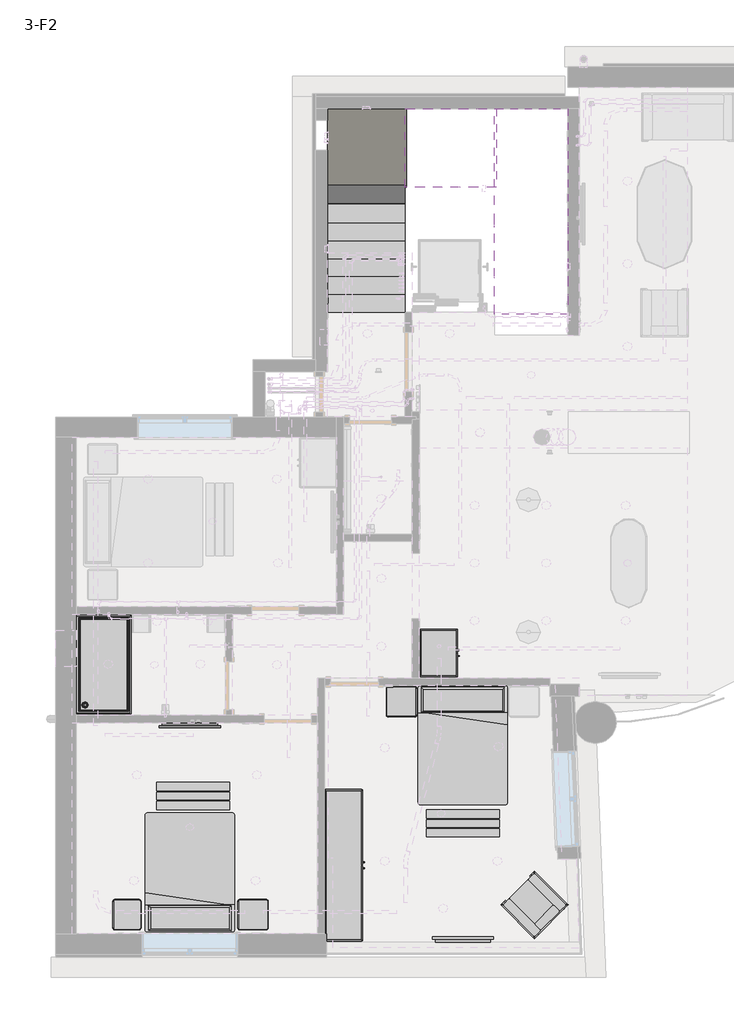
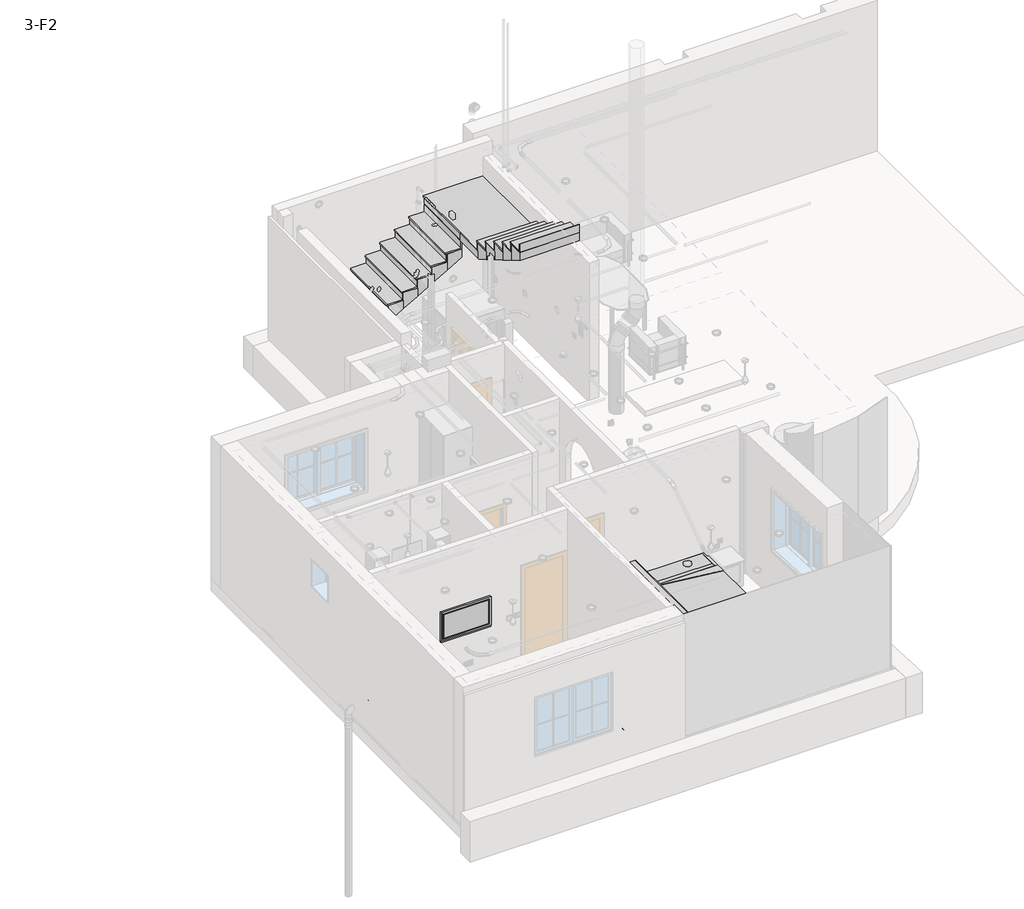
# One storey, part 4 of 12: 12 furniture elements, 3 stair flights, 2 flow terminals, 1 slab.
"""IFC4 building model written with IfcOpenShell, lengths in millimetres."""

from ifc_helpers import new_model, si_unit, point, frame, origin, place, context, project, spatial, polyline, circle_curve, ellipse_curve, trimmed, outline, extrude, faceted_brep, transform, mapped, element, save
from ifc_brep_helpers import plane_surface, cylinder_surface, revolved_surface, advanced_brep
from components import floor_drain_side_discharge_round_15cm_d06e9d18, shower_tray_1_920_x_1650mm_wide_d7a5ca5a, furniture_a3832d90, furniture_200mm_x_600m_de16569d, bed_side_table_9129_bed_side_table_9129_9961343a, bed_side_table_9129_bed_side_table_9129_263ee310, bed_side_table_9129_bed_side_table_9129_f863d0ea, bed_small_sizes_aus_single_3a526048, bench_locker_room_1220_x_457_x_356mm_af128f29, furniture_91679fb3

model = new_model("IFC4")

# Units and contexts
model_context = context("Model", 3, world=origin())
ifc_project = project(units=[si_unit("LENGTHUNIT", "METRE", prefix="MILLI")], contexts=[model_context])

# Site, building, storey
site = spatial("IfcSite", under=ifc_project)
building = spatial("IfcBuilding", under=site)
storey = spatial("IfcBuildingStorey", under=building, Name="3-F2", Elevation=6550.0)

# Flow terminals
placement = place(None, origin())
floor_drain_side_discharge_round_15cm_shape = floor_drain_side_discharge_round_15cm_d06e9d18(model_context)
element("IfcFlowTerminal", 1, ObjectType="Floor Drain Side Discharge Round : 15cm", at=placement, inside=storey, context=model_context, shape_type="MappedRepresentation", body=[
    mapped(floor_drain_side_discharge_round_15cm_shape, transform((-8855.0, -1410.6316453, 6600.0), x_axis=(1.0, 0.0, 0.0), y_axis=(0.0, 1.0, 0.0), z_axis=(0.0, 0.0, 1.0))),
])
shower_tray_1_920_x_1650mm_wide_shape = shower_tray_1_920_x_1650mm_wide_d7a5ca5a(model_context)
element("IfcFlowTerminal", 2, ObjectType="Shower Tray (1) : 920 x 1650mm Wide", at=placement, inside=storey, context=model_context, shape_type="MappedRepresentation", body=[
    mapped(shower_tray_1_920_x_1650mm_wide_shape, transform((-8617.4765921, -827.1632352, 6600.0), x_axis=(0.0, 1.0, 0.0), y_axis=(-1.0, 0.0, 0.0), z_axis=(0.0, 0.0, 1.0))),
])

# Furniture
furniture_shape = furniture_a3832d90(model_context)
element("IfcFurniture", 3, ObjectType="Couch_-_Le_Corbusier_Family_-_1_2_3_seater_9476 : 1 posto", at=placement, inside=storey, context=model_context, shape_type="MappedRepresentation", body=[
    mapped(furniture_shape, transform((-1260.8337899, -4980.6429523, 6600.0), x_axis=(0.7071067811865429, 0.7071067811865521, 0.0), y_axis=(-0.7071067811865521, 0.7071067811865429, 0.0), z_axis=(0.0, 0.0, 1.0))),
])
furniture_200mm_x_600m_shape = furniture_200mm_x_600m_de16569d(model_context)
element("IfcFurniture", 4, ObjectType="Armoire - 2 portes : 200mm x 600m", at=placement, inside=storey, context=model_context, shape_type="MappedRepresentation", body=[
    mapped(furniture_200mm_x_600m_shape, transform((-4616.5261339, -4292.2409788, 6550.0), x_axis=(0.0, 1.0, 0.0), y_axis=(-1.0, 0.0, 0.0), z_axis=(0.0, 0.0, 1.0))),
])
element("IfcFurniture", 5, ObjectType="Armoire - 2 portes : 800mm x 600mm", at=placement, inside=storey, context=model_context, shape_type="SolidModel", body=[
    advanced_brep(
    [(-2678.6151583, -682.1632352, 7558.0), (-2678.6151583, -682.1632352, 7542.0), (-2668.6151583, -682.1632352, 7558.0), (-2668.6151583, -682.1632352, 7542.0), (-2661.6151583, -682.1632352, 7535.0), (-2645.6151583, -682.1632352, 7535.0), (-2645.6151583, -682.1632352, 7465.0), (-2661.6151583, -682.1632352, 7465.0), (-2668.6151583, -682.1632352, 7458.0), (-2668.6151583, -682.1632352, 7442.0), (-2678.6151583, -682.1632352, 7442.0), (-2678.6151583, -682.1632352, 7458.0)],
    [
        (0, 1, circle_curve(frame((-2678.6151583, -682.1632352, 7550.0), z_axis=(-1.0, 0.0, 0.0), x_axis=(0.0, 0.0, -1.0)), 8.0)),
        (1, 0, circle_curve(frame((-2678.6151583, -682.1632352, 7550.0), z_axis=(-1.0, 0.0, 0.0), x_axis=(0.0, 0.0, -1.0)), 8.0)),
        (0, 2),
        (2, 3, circle_curve(frame((-2668.6151583, -682.1632352, 7550.0), z_axis=(-1.0, 0.0, 0.0), x_axis=(0.0, 0.0, -1.0)), 8.0)),
        (3, 1),
        (3, 2, circle_curve(frame((-2668.6151583, -682.1632352, 7550.0), z_axis=(-1.0, 0.0, 0.0), x_axis=(0.0, 0.0, -1.0)), 8.0)),
        (4, 3, circle_curve(frame((-2668.6151583, -682.1632352, 7535.0), z_axis=(0.0, -1.0, 0.0), x_axis=(0.0, 0.0, 1.0)), 7.0)),
        (2, 5, circle_curve(frame((-2668.6151583, -682.1632352, 7535.0), z_axis=(0.0, 1.0, 0.0), x_axis=(0.0, 0.0, 1.0)), 23.0)),
        (5, 4, circle_curve(frame((-2653.6151583, -682.1632352, 7535.0), z_axis=(0.0, 0.0, 1.0), x_axis=(-1.0, 0.0, 0.0)), 8.0)),
        (4, 5, circle_curve(frame((-2653.6151583, -682.1632352, 7535.0), z_axis=(0.0, 0.0, 1.0), x_axis=(-1.0, 0.0, 0.0)), 8.0)),
        (5, 6),
        (6, 7, circle_curve(frame((-2653.6151583, -682.1632352, 7465.0), z_axis=(0.0, 0.0, 1.0), x_axis=(-1.0, 0.0, 0.0)), 8.0)),
        (7, 4),
        (7, 6, circle_curve(frame((-2653.6151583, -682.1632352, 7465.0), z_axis=(0.0, 0.0, 1.0), x_axis=(-1.0, 0.0, 0.0)), 8.0)),
        (8, 7, circle_curve(frame((-2668.6151583, -682.1632352, 7465.0), z_axis=(0.0, -1.0, 0.0), x_axis=(1.0, 0.0, 0.0)), 7.0)),
        (6, 9, circle_curve(frame((-2668.6151583, -682.1632352, 7465.0), z_axis=(0.0, 1.0, 0.0), x_axis=(1.0, 0.0, 0.0)), 23.0)),
        (9, 8, circle_curve(frame((-2668.6151583, -682.1632352, 7450.0), z_axis=(1.0, 0.0, 0.0), x_axis=(0.0, 0.0, 1.0)), 8.0)),
        (8, 9, circle_curve(frame((-2668.6151583, -682.1632352, 7450.0), z_axis=(1.0, 0.0, 0.0), x_axis=(0.0, 0.0, 1.0)), 8.0)),
        (10, 11, circle_curve(frame((-2678.6151583, -682.1632352, 7450.0), z_axis=(-1.0, 0.0, 0.0), x_axis=(0.0, 0.0, 1.0)), 8.0)),
        (11, 10, circle_curve(frame((-2678.6151583, -682.1632352, 7450.0), z_axis=(-1.0, 0.0, 0.0), x_axis=(0.0, 0.0, 1.0)), 8.0)),
        (9, 10),
        (11, 8),
    ],
    [
        plane_surface(frame((-2678.6151583, -632.1632352, 7550.0), z_axis=(-1.0, 0.0, 0.0), x_axis=(0.0, 1.0, 0.0))),
        cylinder_surface(frame((-2678.6151583, -682.1632352, 7550.0), z_axis=(-1.0, 0.0, 0.0), x_axis=(0.0, 0.0, -1.0)), 8.0),
        revolved_surface(trimmed(ellipse_curve(frame((-2668.6151583, -682.1632352, 7550.0), z_axis=(-1.0, 0.0, 0.0), x_axis=(0.0, 0.0, -1.0)), 8.0, 8.0), [point((-2668.6151583, -682.1632352, 7558.0))], [point((-2668.6151583, -682.1632352, 7542.0))], True, "CARTESIAN"), (-2668.6151583, -632.1632352, 7535.0), (0.0, 1.0, 0.0)),
        revolved_surface(trimmed(ellipse_curve(frame((-2668.6151583, -682.1632352, 7550.0), z_axis=(-1.0, 0.0, 0.0), x_axis=(0.0, 0.0, -1.0)), 8.0, 8.0), [point((-2668.6151583, -682.1632352, 7542.0))], [point((-2668.6151583, -682.1632352, 7558.0))], True, "CARTESIAN"), (-2668.6151583, -632.1632352, 7535.0), (0.0, 1.0, 0.0)),
        cylinder_surface(frame((-2653.6151583, -682.1632352, 7535.0), z_axis=(0.0, 0.0, 1.0), x_axis=(-1.0, 0.0, 0.0)), 8.0),
        revolved_surface(trimmed(ellipse_curve(frame((-2653.6151583, -682.1632352, 7465.0), z_axis=(0.0, 0.0, 1.0), x_axis=(-1.0, 0.0, 0.0)), 8.0, 8.0), [point((-2645.6151583, -682.1632352, 7465.0))], [point((-2661.6151583, -682.1632352, 7465.0))], True, "CARTESIAN"), (-2668.6151583, -632.1632352, 7465.0), (0.0, 1.0, 0.0)),
        revolved_surface(trimmed(ellipse_curve(frame((-2653.6151583, -682.1632352, 7465.0), z_axis=(0.0, 0.0, 1.0), x_axis=(-1.0, 0.0, 0.0)), 8.0, 8.0), [point((-2661.6151583, -682.1632352, 7465.0))], [point((-2645.6151583, -682.1632352, 7465.0))], True, "CARTESIAN"), (-2668.6151583, -632.1632352, 7465.0), (0.0, 1.0, 0.0)),
        plane_surface(frame((-2678.6151583, -632.1632352, 7450.0), z_axis=(-1.0, 0.0, 0.0), x_axis=(0.0, 1.0, 0.0))),
        cylinder_surface(frame((-2668.6151583, -682.1632352, 7450.0), z_axis=(1.0, 0.0, 0.0), x_axis=(0.0, 0.0, 1.0)), 8.0),
    ],
    [
        (0, [[1, 2]]),
        (1, [[-1, 3, 4, 5]]),
        (1, [[-2, -5, 6, -3]]),
        (2, [[7, -4, 8, 9]]),
        (3, [[-8, -6, -7, 10]]),
        (4, [[-9, 11, 12, 13]]),
        (4, [[-10, -13, 14, -11]]),
        (5, [[15, -12, 16, 17]]),
        (6, [[-16, -14, -15, 18]]),
        (7, [[19, 20]]),
        (8, [[-17, 21, -20, 22]]),
        (8, [[-18, -22, -19, -21]]),
    ],
),
    advanced_brep(
    [(-2678.6151583, -582.1632352, 7558.0), (-2678.6151583, -582.1632352, 7542.0), (-2668.6151583, -582.1632352, 7558.0), (-2668.6151583, -582.1632352, 7542.0), (-2661.6151583, -582.1632352, 7535.0), (-2645.6151583, -582.1632352, 7535.0), (-2645.6151583, -582.1632352, 7465.0), (-2661.6151583, -582.1632352, 7465.0), (-2668.6151583, -582.1632352, 7458.0), (-2668.6151583, -582.1632352, 7442.0), (-2678.6151583, -582.1632352, 7442.0), (-2678.6151583, -582.1632352, 7458.0)],
    [
        (0, 1, circle_curve(frame((-2678.6151583, -582.1632352, 7550.0), z_axis=(-1.0, 0.0, 0.0), x_axis=(0.0, 0.0, -1.0)), 8.0)),
        (1, 0, circle_curve(frame((-2678.6151583, -582.1632352, 7550.0), z_axis=(-1.0, 0.0, 0.0), x_axis=(0.0, 0.0, -1.0)), 8.0)),
        (0, 2),
        (2, 3, circle_curve(frame((-2668.6151583, -582.1632352, 7550.0), z_axis=(-1.0, 0.0, 0.0), x_axis=(0.0, 0.0, -1.0)), 8.0)),
        (3, 1),
        (3, 2, circle_curve(frame((-2668.6151583, -582.1632352, 7550.0), z_axis=(-1.0, 0.0, 0.0), x_axis=(0.0, 0.0, -1.0)), 8.0)),
        (4, 3, circle_curve(frame((-2668.6151583, -582.1632352, 7535.0), z_axis=(0.0, -1.0, 0.0), x_axis=(0.0, 0.0, 1.0)), 7.0)),
        (2, 5, circle_curve(frame((-2668.6151583, -582.1632352, 7535.0), z_axis=(0.0, 1.0, 0.0), x_axis=(0.0, 0.0, 1.0)), 23.0)),
        (5, 4, circle_curve(frame((-2653.6151583, -582.1632352, 7535.0), z_axis=(0.0, 0.0, 1.0), x_axis=(-1.0, 0.0, 0.0)), 8.0)),
        (4, 5, circle_curve(frame((-2653.6151583, -582.1632352, 7535.0), z_axis=(0.0, 0.0, 1.0), x_axis=(-1.0, 0.0, 0.0)), 8.0)),
        (5, 6),
        (6, 7, circle_curve(frame((-2653.6151583, -582.1632352, 7465.0), z_axis=(0.0, 0.0, 1.0), x_axis=(-1.0, 0.0, 0.0)), 8.0)),
        (7, 4),
        (7, 6, circle_curve(frame((-2653.6151583, -582.1632352, 7465.0), z_axis=(0.0, 0.0, 1.0), x_axis=(-1.0, 0.0, 0.0)), 8.0)),
        (8, 7, circle_curve(frame((-2668.6151583, -582.1632352, 7465.0), z_axis=(0.0, -1.0, 0.0), x_axis=(1.0, 0.0, 0.0)), 7.0)),
        (6, 9, circle_curve(frame((-2668.6151583, -582.1632352, 7465.0), z_axis=(0.0, 1.0, 0.0), x_axis=(1.0, 0.0, 0.0)), 23.0)),
        (9, 8, circle_curve(frame((-2668.6151583, -582.1632352, 7450.0), z_axis=(1.0, 0.0, 0.0), x_axis=(0.0, 0.0, 1.0)), 8.0)),
        (8, 9, circle_curve(frame((-2668.6151583, -582.1632352, 7450.0), z_axis=(1.0, 0.0, 0.0), x_axis=(0.0, 0.0, 1.0)), 8.0)),
        (10, 11, circle_curve(frame((-2678.6151583, -582.1632352, 7450.0), z_axis=(-1.0, 0.0, 0.0), x_axis=(0.0, 0.0, 1.0)), 8.0)),
        (11, 10, circle_curve(frame((-2678.6151583, -582.1632352, 7450.0), z_axis=(-1.0, 0.0, 0.0), x_axis=(0.0, 0.0, 1.0)), 8.0)),
        (9, 10),
        (11, 8),
    ],
    [
        plane_surface(frame((-2678.6151583, -632.1632352, 7550.0), z_axis=(-1.0, 0.0, 0.0), x_axis=(0.0, 1.0, 0.0))),
        cylinder_surface(frame((-2678.6151583, -582.1632352, 7550.0), z_axis=(-1.0, 0.0, 0.0), x_axis=(0.0, 0.0, -1.0)), 8.0),
        revolved_surface(trimmed(ellipse_curve(frame((-2668.6151583, -582.1632352, 7550.0), z_axis=(-1.0, 0.0, 0.0), x_axis=(0.0, 0.0, -1.0)), 8.0, 8.0), [point((-2668.6151583, -582.1632352, 7558.0))], [point((-2668.6151583, -582.1632352, 7542.0))], True, "CARTESIAN"), (-2668.6151583, -632.1632352, 7535.0), (0.0, 1.0, 0.0)),
        revolved_surface(trimmed(ellipse_curve(frame((-2668.6151583, -582.1632352, 7550.0), z_axis=(-1.0, 0.0, 0.0), x_axis=(0.0, 0.0, -1.0)), 8.0, 8.0), [point((-2668.6151583, -582.1632352, 7542.0))], [point((-2668.6151583, -582.1632352, 7558.0))], True, "CARTESIAN"), (-2668.6151583, -632.1632352, 7535.0), (0.0, 1.0, 0.0)),
        cylinder_surface(frame((-2653.6151583, -582.1632352, 7535.0), z_axis=(0.0, 0.0, 1.0), x_axis=(-1.0, 0.0, 0.0)), 8.0),
        revolved_surface(trimmed(ellipse_curve(frame((-2653.6151583, -582.1632352, 7465.0), z_axis=(0.0, 0.0, 1.0), x_axis=(-1.0, 0.0, 0.0)), 8.0, 8.0), [point((-2645.6151583, -582.1632352, 7465.0))], [point((-2661.6151583, -582.1632352, 7465.0))], True, "CARTESIAN"), (-2668.6151583, -632.1632352, 7465.0), (0.0, 1.0, 0.0)),
        revolved_surface(trimmed(ellipse_curve(frame((-2653.6151583, -582.1632352, 7465.0), z_axis=(0.0, 0.0, 1.0), x_axis=(-1.0, 0.0, 0.0)), 8.0, 8.0), [point((-2661.6151583, -582.1632352, 7465.0))], [point((-2645.6151583, -582.1632352, 7465.0))], True, "CARTESIAN"), (-2668.6151583, -632.1632352, 7465.0), (0.0, 1.0, 0.0)),
        plane_surface(frame((-2678.6151583, -632.1632352, 7450.0), z_axis=(-1.0, 0.0, 0.0), x_axis=(0.0, 1.0, 0.0))),
        cylinder_surface(frame((-2668.6151583, -582.1632352, 7450.0), z_axis=(1.0, 0.0, 0.0), x_axis=(0.0, 0.0, 1.0)), 8.0),
    ],
    [
        (0, [[1, 2]]),
        (1, [[-1, 3, 4, 5]]),
        (1, [[-2, -5, 6, -3]]),
        (2, [[7, -4, 8, 9]]),
        (3, [[-8, -6, -7, 10]]),
        (4, [[-9, 11, 12, 13]]),
        (4, [[-10, -13, 14, -11]]),
        (5, [[15, -12, 16, 17]]),
        (6, [[-16, -14, -15, 18]]),
        (7, [[19, 20]]),
        (8, [[-17, 21, -20, 22]]),
        (8, [[-18, -22, -19, -21]]),
    ],
),
    extrude(outline(polyline([(-2697.6151583, -232.1632352), (-2697.6151583, -1032.1632352), (-3297.6151583, -1032.1632352), (-3297.6151583, -232.1632352), (-2697.6151583, -232.1632352)])), frame((0.0, 0.0, 6780.0), z_axis=(0.0, 0.0, 1.0), x_axis=(1.0, 0.0, 0.0)), (0.0, 0.0, 1.0), 19.0),
    extrude(outline(polyline([(-2697.6151583, -232.1632352), (-2697.6151583, -1032.1632352), (-3297.6151583, -1032.1632352), (-3297.6151583, -232.1632352), (-2697.6151583, -232.1632352)])), frame((0.0, 0.0, 8381.0), z_axis=(0.0, 0.0, 1.0), x_axis=(1.0, 0.0, 0.0)), (0.0, 0.0, 1.0), 19.0),
    extrude(outline(polyline([(-2678.6151583, -637.1632352), (-2678.6151583, -1027.1632352), (-2697.6151583, -1027.1632352), (-2697.6151583, -637.1632352), (-2678.6151583, -637.1632352)])), frame((0.0, 0.0, 6785.0), z_axis=(0.0, 0.0, 1.0), x_axis=(1.0, 0.0, 0.0)), (0.0, 0.0, 1.0), 1610.0),
    extrude(outline(polyline([(-2678.6151583, -237.1632352), (-2678.6151583, -627.1632352), (-2697.6151583, -627.1632352), (-2697.6151583, -237.1632352), (-2678.6151583, -237.1632352)])), frame((0.0, 0.0, 6785.0), z_axis=(0.0, 0.0, 1.0), x_axis=(1.0, 0.0, 0.0)), (0.0, 0.0, 1.0), 1610.0),
    faceted_brep([(-2752.6151583, -287.1632352, 6750.0), (-2752.6151583, -287.1632352, 6780.0), (-3242.6151583, -287.1632352, 6780.0), (-3242.6151583, -287.1632352, 6750.0), (-2722.6151583, -257.1632352, 6600.0), (-2752.6151583, -257.1632352, 6600.0), (-2752.6151583, -257.1632352, 6750.0), (-3242.6151583, -257.1632352, 6750.0), (-3242.6151583, -257.1632352, 6600.0), (-3272.6151583, -257.1632352, 6600.0), (-3272.6151583, -257.1632352, 6780.0), (-2722.6151583, -257.1632352, 6780.0), (-3242.6151583, -977.1632352, 6780.0), (-3242.6151583, -977.1632352, 6750.0), (-3272.6151583, -287.1632352, 6600.0), (-3272.6151583, -287.1632352, 6750.0), (-3272.6151583, -977.1632352, 6750.0), (-3272.6151583, -977.1632352, 6600.0), (-3272.6151583, -1007.1632352, 6600.0), (-3272.6151583, -1007.1632352, 6780.0), (-2752.6151583, -977.1632352, 6780.0), (-2752.6151583, -977.1632352, 6750.0), (-3242.6151583, -1007.1632352, 6600.0), (-3242.6151583, -1007.1632352, 6750.0), (-2752.6151583, -1007.1632352, 6750.0), (-2752.6151583, -1007.1632352, 6600.0), (-2722.6151583, -1007.1632352, 6600.0), (-2722.6151583, -1007.1632352, 6780.0), (-2722.6151583, -287.1632352, 6750.0), (-2722.6151583, -977.1632352, 6750.0), (-2722.6151583, -977.1632352, 6600.0), (-2722.6151583, -287.1632352, 6600.0), (-2752.6151583, -977.1632352, 6600.0), (-2752.6151583, -287.1632352, 6600.0), (-3242.6151583, -977.1632352, 6600.0), (-3242.6151583, -287.1632352, 6600.0)], [[[0, 1, 2, 3]], [[4, 5, 6, 7, 8, 9, 10, 11]], [[3, 2, 12, 13]], [[10, 9, 14, 15, 16, 17, 18, 19]], [[13, 12, 20, 21]], [[19, 18, 22, 23, 24, 25, 26, 27]], [[1, 0, 21, 20]], [[0, 3, 7, 6]], [[3, 13, 16, 15]], [[13, 21, 24, 23]], [[21, 0, 28, 29]], [[4, 11, 27, 26, 30, 29, 28, 31]], [[10, 19, 27, 11], [2, 1, 20, 12]], [[30, 26, 25, 32]], [[4, 31, 33, 5]], [[34, 22, 18, 17]], [[8, 35, 14, 9]], [[30, 32, 21, 29]], [[32, 25, 24, 21]], [[34, 17, 16, 13]], [[22, 34, 13, 23]], [[14, 35, 3, 15]], [[35, 8, 7, 3]], [[5, 33, 0, 6]], [[33, 31, 28, 0]]]),
    extrude(outline(polyline([(-2697.6151583, -1013.1632352), (-2697.6151583, -1032.1632352), (-3297.6151583, -1032.1632352), (-3297.6151583, -1013.1632352), (-2697.6151583, -1013.1632352)])), frame((0.0, 0.0, 6799.0), z_axis=(0.0, 0.0, 1.0), x_axis=(1.0, 0.0, 0.0)), (0.0, 0.0, 1.0), 1582.0),
    extrude(outline(polyline([(-2697.6151583, -232.1632352), (-2697.6151583, -251.1632352), (-3297.6151583, -251.1632352), (-3297.6151583, -232.1632352), (-2697.6151583, -232.1632352)])), frame((0.0, 0.0, 6799.0), z_axis=(0.0, 0.0, 1.0), x_axis=(1.0, 0.0, 0.0)), (0.0, 0.0, 1.0), 1582.0),
    extrude(outline(polyline([(-3287.6151583, -251.1632352), (-3287.6151583, -1013.1632352), (-3297.6151583, -1013.1632352), (-3297.6151583, -251.1632352), (-3287.6151583, -251.1632352)])), frame((0.0, 0.0, 6799.0), z_axis=(0.0, 0.0, 1.0), x_axis=(1.0, 0.0, 0.0)), (0.0, 0.0, 1.0), 1582.0),
])
bed_side_table_9129_bed_side_table_9129_shape = bed_side_table_9129_bed_side_table_9129_9961343a(model_context)
element("IfcFurniture", 6, ObjectType="BED_SIDE_TABLE_9129 : BED_SIDE_TABLE_9129", at=placement, inside=storey, context=model_context, shape_type="MappedRepresentation", body=[
    mapped(bed_side_table_9129_bed_side_table_9129_shape, transform((-6072.3106292, -4979.8724951, 6600.0), x_axis=(0.0, -1.0, 0.0), y_axis=(1.0, 0.0, 0.0), z_axis=(0.0, 0.0, 1.0))),
])
bed_side_table_9129_bed_side_table_9129_2_shape = bed_side_table_9129_bed_side_table_9129_263ee310(model_context)
element("IfcFurniture", 7, ObjectType="BED_SIDE_TABLE_9129 : BED_SIDE_TABLE_9129", at=placement, inside=storey, context=model_context, shape_type="MappedRepresentation", body=[
    mapped(bed_side_table_9129_bed_side_table_9129_2_shape, transform((-8187.3382012, -5059.8724951, 6600.0), x_axis=(0.0, 1.0, 0.0), y_axis=(-1.0, 0.0, 0.0), z_axis=(0.0, 0.0, 1.0))),
])
bed_side_table_9129_bed_side_table_9129_3_shape = bed_side_table_9129_bed_side_table_9129_f863d0ea(model_context)
element("IfcFurniture", 8, ObjectType="BED_SIDE_TABLE_9129 : BED_SIDE_TABLE_9129", at=placement, inside=storey, context=model_context, shape_type="MappedRepresentation", body=[
    mapped(bed_side_table_9129_bed_side_table_9129_3_shape, transform((-3652.7882192, -1410.2773764, 6550.0), x_axis=(0.0, -1.0, 0.0), y_axis=(1.0, 0.0, 0.0), z_axis=(0.0, 0.0, 1.0))),
])
bed_small_sizes_aus_single_shape = bed_small_sizes_aus_single_3a526048(model_context)
element("IfcFurniture", 9, ObjectType="Bed - Small Sizes (AUS) : Single", at=placement, inside=storey, context=model_context, shape_type="MappedRepresentation", body=[
    mapped(bed_small_sizes_aus_single_shape, transform((-7193.7924833, -5314.0873245, 6600.0), x_axis=(-1.0, 0.0, 0.0), y_axis=(0.0, -1.0, 0.0), z_axis=(0.0, 0.0, 1.0))),
])
element("IfcFurniture", 10, ObjectType="Bed - Small Sizes (AUS) : Single", at=placement, inside=storey, context=model_context, shape_type="MappedRepresentation", body=[
    mapped(bed_small_sizes_aus_single_shape, transform((-2563.7229998, -1177.1632352, 6600.0), x_axis=(1.0, 0.0, 0.0), y_axis=(0.0, 1.0, 0.0), z_axis=(0.0, 0.0, 1.0))),
])
bench_locker_room_1220_x_457_x_356mm_shape = bench_locker_room_1220_x_457_x_356mm_af128f29(model_context)
element("IfcFurniture", 11, ObjectType="Bench - Locker Room : 1220 x 457 x 356mm", at=placement, inside=storey, context=model_context, shape_type="MappedRepresentation", body=[
    mapped(bench_locker_room_1220_x_457_x_356mm_shape, transform((-2431.0822552, -3307.657741, 6600.0), x_axis=(1.0, 0.0, 0.0), y_axis=(0.0, 1.0, 0.0), z_axis=(0.0, 0.0, 1.0))),
])
element("IfcFurniture", 12, ObjectType="Bench - Locker Room : 1220 x 457 x 356mm", at=placement, inside=storey, context=model_context, shape_type="MappedRepresentation", body=[
    mapped(bench_locker_room_1220_x_457_x_356mm_shape, transform((-6960.1537197, -2847.9484811, 6600.0), x_axis=(1.0, 0.0, 0.0), y_axis=(0.0, 1.0, 0.0), z_axis=(0.0, 0.0, 1.0))),
])
furniture_2_shape = furniture_91679fb3(model_context)
element("IfcFurniture", 13, ObjectType="Television - Plasma : 42\"", at=placement, inside=storey, context=model_context, shape_type="MappedRepresentation", body=[
    mapped(furniture_2_shape, transform((-2529.2470093, -5484.0873245, 7050.0), x_axis=(-1.0, 0.0, 0.0), y_axis=(0.0, -1.0, 0.0), z_axis=(0.0, 0.0, 1.0))),
])
element("IfcFurniture", 14, ObjectType="Television - Plasma : 42\"", at=placement, inside=storey, context=model_context, shape_type="MappedRepresentation", body=[
    mapped(furniture_2_shape, transform((-7228.2684738, -1799.8724951, 7700.0), x_axis=(1.0, 0.0, 0.0), y_axis=(0.0, 1.0, 0.0), z_axis=(0.0, 0.0, 1.0))),
])

# Slab
element("IfcSlab", 15, ObjectType="300mm Thickness", at=placement, inside=storey, context=model_context, shape_type="SolidModel", body=[
    faceted_brep([(-4857.4765921, 7216.9560655, 7930.5263158), (-3557.4765921, 7216.9560655, 7930.5263158), (-3557.4765921, 7184.4560655, 7930.5263158), (-3524.9765921, 7184.4560655, 7930.5263158), (-3524.9765921, 8501.6620874, 7930.5263158), (-3557.4765921, 8501.6620874, 7930.5263158), (-3739.3851174, 8501.6620874, 7930.5263158), (-4857.4765921, 8501.6620874, 7930.5263158), (-4857.4765921, 7302.5475402, 7930.5263158), (-4857.4765921, 7216.9560655, 7754.2105263), (-4857.4765921, 7216.9560655, 7580.2225543), (-3557.4765921, 7216.9560655, 7580.2225543), (-3557.4765921, 7216.9560655, 7737.4374666), (-3557.4765921, 7216.9560655, 7754.2105263), (-3524.9765921, 7184.4560655, 7756.5383438), (-3524.9765921, 8501.6620874, 7756.5383438), (-3557.4765921, 8501.6620874, 7737.4374666), (-3739.3851174, 8501.6620874, 7630.5263158), (-4857.4765921, 8501.6620874, 7630.5263158), (-4857.4765921, 7302.5475402, 7630.5263158), (-3739.3851174, 7302.5475402, 7630.5263158), (-3557.4765921, 7302.5475402, 7630.5263158), (-3557.4765921, 7302.5475402, 7737.4374666), (-3557.4765921, 7184.4560655, 7737.4374666)], [[[0, 1, 2, 3, 4, 5, 6, 7, 8]], [[1, 0, 9, 10, 11, 12, 13]], [[4, 3, 14, 15]], [[5, 16, 17, 18, 7, 6]], [[10, 9, 0, 8, 7, 18, 19]], [[20, 19, 18, 17]], [[20, 21, 11, 10, 19]], [[21, 20, 22]], [[21, 22, 12, 11]], [[20, 17, 16, 15, 14, 23, 12, 22]], [[2, 1, 13, 12, 23]], [[3, 2, 23, 14]], [[5, 4, 15, 16]]]),
    extrude(outline(polyline([(-4857.4765921, 7184.4560655), (-4857.4765921, 8501.6620874), (-3557.4765921, 8501.6620874), (-3537.4765921, 8501.6620874), (-3537.4765921, 7184.4560655), (-3557.4765921, 7184.4560655), (-4857.4765921, 7184.4560655)])), frame((0.0, 0.0, 7930.5263158), z_axis=(0.0, 0.0, 1.0), x_axis=(1.0, 0.0, 0.0)), (0.0, 0.0, 1.0), 30.0),
])

# Stair flights
element("IfcStairFlight", 16, ObjectType="150mm Depth", at=placement, inside=storey, context=model_context, shape_type="SolidModel", body=[
    faceted_brep([(-4857.4765921, 5416.9560655, 6696.3157895), (-4857.4765921, 5116.9560655, 6696.3157895), (-3557.4765921, 5116.9560655, 6696.3157895), (-3557.4765921, 5416.9560655, 6696.3157895), (-4857.4765921, 5416.9560655, 6550.0), (-4857.4765921, 5116.9560655, 6550.0), (-3557.4765921, 5116.9560655, 6550.0), (-3557.4765921, 5416.9560655, 6550.0), (-4857.4765921, 5716.9560655, 6872.6315789), (-4857.4765921, 5416.9560655, 6872.6315789), (-3557.4765921, 5416.9560655, 6872.6315789), (-3557.4765921, 5716.9560655, 6872.6315789), (-4857.4765921, 5716.9560655, 6698.6436069), (-4857.4765921, 5464.0400775, 6550.0), (-3557.4765921, 5464.0400775, 6550.0), (-3557.4765921, 5716.9560655, 6698.6436069), (-4857.4765921, 6016.9560655, 7048.9473684), (-4857.4765921, 5716.9560655, 7048.9473684), (-3557.4765921, 5716.9560655, 7048.9473684), (-3557.4765921, 6016.9560655, 7048.9473684), (-4857.4765921, 6016.9560655, 6874.9593964), (-3557.4765921, 6016.9560655, 6874.9593964), (-4857.4765921, 6316.9560655, 7225.2631579), (-4857.4765921, 6016.9560655, 7225.2631579), (-3557.4765921, 6016.9560655, 7225.2631579), (-3557.4765921, 6316.9560655, 7225.2631579), (-4857.4765921, 6316.9560655, 7051.2751859), (-3557.4765921, 6316.9560655, 7051.2751859), (-4857.4765921, 6616.9560655, 7401.5789474), (-4857.4765921, 6316.9560655, 7401.5789474), (-3557.4765921, 6316.9560655, 7401.5789474), (-3557.4765921, 6616.9560655, 7401.5789474), (-4857.4765921, 6616.9560655, 7227.5909754), (-3557.4765921, 6616.9560655, 7227.5909754), (-4857.4765921, 6916.9560655, 7577.8947368), (-4857.4765921, 6616.9560655, 7577.8947368), (-3557.4765921, 6616.9560655, 7577.8947368), (-3557.4765921, 6916.9560655, 7577.8947368), (-4857.4765921, 6916.9560655, 7403.9067648), (-3557.4765921, 6916.9560655, 7403.9067648), (-4857.4765921, 7184.4560655, 7561.1216771), (-4857.4765921, 7216.9560655, 7580.2225543), (-3557.4765921, 7216.9560655, 7580.2225543), (-3557.4765921, 7184.4560655, 7561.1216771), (-4857.4765921, 7216.9560655, 7754.2105263), (-4857.4765921, 7184.4560655, 7754.2105263), (-4857.4765921, 6916.9560655, 7754.2105263), (-3557.4765921, 6916.9560655, 7754.2105263), (-3557.4765921, 7184.4560655, 7754.2105263), (-3557.4765921, 7216.9560655, 7754.2105263), (-3557.4765921, 7216.9560655, 7737.4374666)], [[[0, 1, 2, 3]], [[1, 0, 4, 5]], [[2, 1, 5, 6]], [[3, 2, 6, 7]], [[8, 9, 10, 11]], [[4, 0, 9, 8, 12, 13]], [[0, 3, 10, 9]], [[3, 7, 14, 15, 11, 10]], [[16, 17, 18, 19]], [[17, 16, 20, 12, 8]], [[8, 11, 18, 17]], [[19, 18, 11, 15, 21]], [[22, 23, 24, 25]], [[23, 22, 26, 20, 16]], [[16, 19, 24, 23]], [[25, 24, 19, 21, 27]], [[28, 29, 30, 31]], [[29, 28, 32, 26, 22]], [[22, 25, 30, 29]], [[31, 30, 25, 27, 33]], [[34, 35, 36, 37]], [[35, 34, 38, 32, 28]], [[28, 31, 36, 35]], [[37, 36, 31, 33, 39]], [[5, 4, 13, 14, 7, 6]], [[14, 13, 12, 20, 26, 32, 38, 40, 41, 42, 43, 39, 33, 27, 21, 15]], [[44, 45, 46, 47, 48, 49]], [[45, 44, 41, 40]], [[46, 45, 40, 38, 34]], [[34, 37, 47, 46]], [[48, 47, 37, 39, 43]], [[49, 48, 43, 42, 50]], [[44, 49, 50, 42, 41]]]),
    extrude(outline(polyline([(-3557.4765921, 5116.9560655), (-3557.4765921, 5104.4560655), (-4857.4765921, 5104.4560655), (-4857.4765921, 5116.9560655), (-3557.4765921, 5116.9560655)])), frame((0.0, 0.0, 6550.0), z_axis=(0.0, 0.0, 1.0), x_axis=(1.0, 0.0, 0.0)), (0.0, 0.0, 1.0), 146.3157895),
    extrude(outline(polyline([(-4857.4765921, 5404.4560655), (-3557.4765921, 5404.4560655), (-3557.4765921, 5084.4560655), (-4857.4765921, 5084.4560655), (-4857.4765921, 5404.4560655)])), frame((0.0, 0.0, 6696.3157895), z_axis=(0.0, 0.0, 1.0), x_axis=(1.0, 0.0, 0.0)), (0.0, 0.0, 1.0), 30.0),
    extrude(outline(polyline([(-3557.4765921, 5416.9560655), (-3557.4765921, 5404.4560655), (-4857.4765921, 5404.4560655), (-4857.4765921, 5416.9560655), (-3557.4765921, 5416.9560655)])), frame((0.0, 0.0, 6696.3157895), z_axis=(0.0, 0.0, 1.0), x_axis=(1.0, 0.0, 0.0)), (0.0, 0.0, 1.0), 176.3157895),
    extrude(outline(polyline([(-4857.4765921, 5704.4560655), (-3557.4765921, 5704.4560655), (-3557.4765921, 5384.4560655), (-4857.4765921, 5384.4560655), (-4857.4765921, 5704.4560655)])), frame((0.0, 0.0, 6872.6315789), z_axis=(0.0, 0.0, 1.0), x_axis=(1.0, 0.0, 0.0)), (0.0, 0.0, 1.0), 30.0),
    extrude(outline(polyline([(-3557.4765921, 5716.9560655), (-3557.4765921, 5704.4560655), (-4857.4765921, 5704.4560655), (-4857.4765921, 5716.9560655), (-3557.4765921, 5716.9560655)])), frame((0.0, 0.0, 6872.6315789), z_axis=(0.0, 0.0, 1.0), x_axis=(1.0, 0.0, 0.0)), (0.0, 0.0, 1.0), 176.3157895),
    extrude(outline(polyline([(-4857.4765921, 6004.4560655), (-3557.4765921, 6004.4560655), (-3557.4765921, 5684.4560655), (-4857.4765921, 5684.4560655), (-4857.4765921, 6004.4560655)])), frame((0.0, 0.0, 7048.9473684), z_axis=(0.0, 0.0, 1.0), x_axis=(1.0, 0.0, 0.0)), (0.0, 0.0, 1.0), 30.0),
    extrude(outline(polyline([(-3557.4765921, 6016.9560655), (-3557.4765921, 6004.4560655), (-4857.4765921, 6004.4560655), (-4857.4765921, 6016.9560655), (-3557.4765921, 6016.9560655)])), frame((0.0, 0.0, 7048.9473684), z_axis=(0.0, 0.0, 1.0), x_axis=(1.0, 0.0, 0.0)), (0.0, 0.0, 1.0), 176.3157895),
    extrude(outline(polyline([(-4857.4765921, 6304.4560655), (-3557.4765921, 6304.4560655), (-3557.4765921, 5984.4560655), (-4857.4765921, 5984.4560655), (-4857.4765921, 6304.4560655)])), frame((0.0, 0.0, 7225.2631579), z_axis=(0.0, 0.0, 1.0), x_axis=(1.0, 0.0, 0.0)), (0.0, 0.0, 1.0), 30.0),
    extrude(outline(polyline([(-3557.4765921, 6316.9560655), (-3557.4765921, 6304.4560655), (-4857.4765921, 6304.4560655), (-4857.4765921, 6316.9560655), (-3557.4765921, 6316.9560655)])), frame((0.0, 0.0, 7225.2631579), z_axis=(0.0, 0.0, 1.0), x_axis=(1.0, 0.0, 0.0)), (0.0, 0.0, 1.0), 176.3157895),
    extrude(outline(polyline([(-4857.4765921, 6604.4560655), (-3557.4765921, 6604.4560655), (-3557.4765921, 6284.4560655), (-4857.4765921, 6284.4560655), (-4857.4765921, 6604.4560655)])), frame((0.0, 0.0, 7401.5789474), z_axis=(0.0, 0.0, 1.0), x_axis=(1.0, 0.0, 0.0)), (0.0, 0.0, 1.0), 30.0),
    extrude(outline(polyline([(-3557.4765921, 6616.9560655), (-3557.4765921, 6604.4560655), (-4857.4765921, 6604.4560655), (-4857.4765921, 6616.9560655), (-3557.4765921, 6616.9560655)])), frame((0.0, 0.0, 7401.5789474), z_axis=(0.0, 0.0, 1.0), x_axis=(1.0, 0.0, 0.0)), (0.0, 0.0, 1.0), 176.3157895),
    extrude(outline(polyline([(-4857.4765921, 6904.4560655), (-3557.4765921, 6904.4560655), (-3557.4765921, 6584.4560655), (-4857.4765921, 6584.4560655), (-4857.4765921, 6904.4560655)])), frame((0.0, 0.0, 7577.8947368), z_axis=(0.0, 0.0, 1.0), x_axis=(1.0, 0.0, 0.0)), (0.0, 0.0, 1.0), 30.0),
    extrude(outline(polyline([(-3557.4765921, 7216.9560655), (-3557.4765921, 7204.4560655), (-4857.4765921, 7204.4560655), (-4857.4765921, 7216.9560655), (-3557.4765921, 7216.9560655)])), frame((0.0, 0.0, 7754.2105263), z_axis=(0.0, 0.0, 1.0), x_axis=(1.0, 0.0, 0.0)), (0.0, 0.0, 1.0), 176.3157895),
    extrude(outline(polyline([(-3557.4765921, 6916.9560655), (-3557.4765921, 6904.4560655), (-4857.4765921, 6904.4560655), (-4857.4765921, 6916.9560655), (-3557.4765921, 6916.9560655)])), frame((0.0, 0.0, 7577.8947368), z_axis=(0.0, 0.0, 1.0), x_axis=(1.0, 0.0, 0.0)), (0.0, 0.0, 1.0), 176.3157895),
    extrude(outline(polyline([(-4857.4765921, 7204.4560655), (-3557.4765921, 7204.4560655), (-3557.4765921, 7184.4560655), (-3557.4765921, 6884.4560655), (-4857.4765921, 6884.4560655), (-4857.4765921, 7184.4560655), (-4857.4765921, 7204.4560655)])), frame((0.0, 0.0, 7754.2105263), z_axis=(0.0, 0.0, 1.0), x_axis=(1.0, 0.0, 0.0)), (0.0, 0.0, 1.0), 30.0),
])
element("IfcStairFlight", 17, ObjectType="150mm Depth", at=placement, inside=storey, context=model_context, shape_type="SolidModel", body=[
    faceted_brep([(-3224.9765921, 8501.6620874, 8106.8421053), (-3524.9765921, 8501.6620874, 8106.8421053), (-3524.9765921, 7184.4560655, 8106.8421053), (-3224.9765921, 7184.4560655, 8106.8421053), (-3224.9765921, 8501.6620874, 7932.8541333), (-3524.9765921, 8501.6620874, 7756.5383438), (-3524.9765921, 8501.6620874, 7930.5263158), (-3524.9765921, 7184.4560655, 7756.5383438), (-3524.9765921, 7184.4560655, 7930.5263158), (-3224.9765921, 7184.4560655, 7932.8541333), (-2924.9765921, 8501.6620874, 8283.1578947), (-3224.9765921, 8501.6620874, 8283.1578947), (-3224.9765921, 7184.4560655, 8283.1578947), (-2924.9765921, 7184.4560655, 8283.1578947), (-2924.9765921, 8501.6620874, 8109.1699227), (-2924.9765921, 7184.4560655, 8109.1699227), (-2624.9765921, 8501.6620874, 8459.4736842), (-2924.9765921, 8501.6620874, 8459.4736842), (-2924.9765921, 7184.4560655, 8459.4736842), (-2624.9765921, 7184.4560655, 8459.4736842), (-2624.9765921, 8501.6620874, 8285.4857122), (-2624.9765921, 7184.4560655, 8285.4857122), (-2324.9765921, 8501.6620874, 8635.7894737), (-2624.9765921, 8501.6620874, 8635.7894737), (-2624.9765921, 7184.4560655, 8635.7894737), (-2324.9765921, 7184.4560655, 8635.7894737), (-2324.9765921, 8501.6620874, 8461.8015017), (-2324.9765921, 7184.4560655, 8461.8015017), (-2024.9765921, 8501.6620874, 8812.1052632), (-2324.9765921, 8501.6620874, 8812.1052632), (-2324.9765921, 7184.4560655, 8812.1052632), (-2024.9765921, 7184.4560655, 8812.1052632), (-2024.9765921, 8501.6620874, 8638.1172911), (-2024.9765921, 7184.4560655, 8638.1172911)], [[[0, 1, 2, 3]], [[1, 0, 4, 5, 6]], [[2, 1, 6, 5, 7, 8]], [[3, 2, 8, 7, 9]], [[10, 11, 12, 13]], [[11, 10, 14, 4, 0]], [[12, 11, 0, 3]], [[13, 12, 3, 9, 15]], [[16, 17, 18, 19]], [[17, 16, 20, 14, 10]], [[18, 17, 10, 13]], [[19, 18, 13, 15, 21]], [[22, 23, 24, 25]], [[23, 22, 26, 20, 16]], [[24, 23, 16, 19]], [[25, 24, 19, 21, 27]], [[28, 29, 30, 31]], [[29, 28, 32, 26, 22]], [[30, 29, 22, 25]], [[31, 30, 25, 27, 33]], [[28, 31, 33, 32]], [[5, 4, 14, 20, 26, 32, 33, 27, 21, 15, 9, 7]]]),
    extrude(outline(polyline([(-3524.9765921, 7184.4560655), (-3537.4765921, 7184.4560655), (-3537.4765921, 8501.6620874), (-3524.9765921, 8501.6620874), (-3524.9765921, 7184.4560655)])), frame((0.0, 0.0, 7930.5263158), z_axis=(0.0, 0.0, 1.0), x_axis=(1.0, 0.0, 0.0)), (0.0, 0.0, 1.0), 176.3157895),
    extrude(outline(polyline([(-3237.4765921, 8501.6620874), (-3237.4765921, 7184.4560655), (-3557.4765921, 7184.4560655), (-3557.4765921, 8501.6620874), (-3237.4765921, 8501.6620874)])), frame((0.0, 0.0, 8106.8421053), z_axis=(0.0, 0.0, 1.0), x_axis=(1.0, 0.0, 0.0)), (0.0, 0.0, 1.0), 30.0),
    extrude(outline(polyline([(-3224.9765921, 7184.4560655), (-3237.4765921, 7184.4560655), (-3237.4765921, 8501.6620874), (-3224.9765921, 8501.6620874), (-3224.9765921, 7184.4560655)])), frame((0.0, 0.0, 8106.8421053), z_axis=(0.0, 0.0, 1.0), x_axis=(1.0, 0.0, 0.0)), (0.0, 0.0, 1.0), 176.3157895),
    extrude(outline(polyline([(-2937.4765921, 8501.6620874), (-2937.4765921, 7184.4560655), (-3257.4765921, 7184.4560655), (-3257.4765921, 8501.6620874), (-2937.4765921, 8501.6620874)])), frame((0.0, 0.0, 8283.1578947), z_axis=(0.0, 0.0, 1.0), x_axis=(1.0, 0.0, 0.0)), (0.0, 0.0, 1.0), 30.0),
    extrude(outline(polyline([(-2924.9765921, 7184.4560655), (-2937.4765921, 7184.4560655), (-2937.4765921, 8501.6620874), (-2924.9765921, 8501.6620874), (-2924.9765921, 7184.4560655)])), frame((0.0, 0.0, 8283.1578947), z_axis=(0.0, 0.0, 1.0), x_axis=(1.0, 0.0, 0.0)), (0.0, 0.0, 1.0), 176.3157895),
    extrude(outline(polyline([(-2637.4765921, 8501.6620874), (-2637.4765921, 7184.4560655), (-2957.4765921, 7184.4560655), (-2957.4765921, 8501.6620874), (-2637.4765921, 8501.6620874)])), frame((0.0, 0.0, 8459.4736842), z_axis=(0.0, 0.0, 1.0), x_axis=(1.0, 0.0, 0.0)), (0.0, 0.0, 1.0), 30.0),
    extrude(outline(polyline([(-2624.9765921, 7184.4560655), (-2637.4765921, 7184.4560655), (-2637.4765921, 8501.6620874), (-2624.9765921, 8501.6620874), (-2624.9765921, 7184.4560655)])), frame((0.0, 0.0, 8459.4736842), z_axis=(0.0, 0.0, 1.0), x_axis=(1.0, 0.0, 0.0)), (0.0, 0.0, 1.0), 176.3157895),
    extrude(outline(polyline([(-2337.4765921, 8501.6620874), (-2337.4765921, 7184.4560655), (-2657.4765921, 7184.4560655), (-2657.4765921, 8501.6620874), (-2337.4765921, 8501.6620874)])), frame((0.0, 0.0, 8635.7894737), z_axis=(0.0, 0.0, 1.0), x_axis=(1.0, 0.0, 0.0)), (0.0, 0.0, 1.0), 30.0),
    extrude(outline(polyline([(-2324.9765921, 7184.4560655), (-2337.4765921, 7184.4560655), (-2337.4765921, 8501.6620874), (-2324.9765921, 8501.6620874), (-2324.9765921, 7184.4560655)])), frame((0.0, 0.0, 8635.7894737), z_axis=(0.0, 0.0, 1.0), x_axis=(1.0, 0.0, 0.0)), (0.0, 0.0, 1.0), 176.3157895),
    extrude(outline(polyline([(-2024.9765921, 7184.4560655), (-2037.4765921, 7184.4560655), (-2037.4765921, 8501.6620874), (-2024.9765921, 8501.6620874), (-2024.9765921, 7184.4560655)])), frame((0.0, 0.0, 8812.1052632), z_axis=(0.0, 0.0, 1.0), x_axis=(1.0, 0.0, 0.0)), (0.0, 0.0, 1.0), 176.3157895),
    extrude(outline(polyline([(-2037.4765921, 8501.6620874), (-2037.4765921, 7184.4560655), (-2357.4765921, 7184.4560655), (-2357.4765921, 8501.6620874), (-2037.4765921, 8501.6620874)])), frame((0.0, 0.0, 8812.1052632), z_axis=(0.0, 0.0, 1.0), x_axis=(1.0, 0.0, 0.0)), (0.0, 0.0, 1.0), 30.0),
])
element("IfcStairFlight", 18, ObjectType="150mm Depth", at=placement, inside=storey, context=model_context, shape_type="SolidModel", body=[
    faceted_brep([(-827.4765921, 6551.9560655, 9164.7368421), (-827.4765921, 8501.6620874, 9164.7368421), (-2024.9765921, 8501.6620874, 9164.7368421), (-2024.9765921, 7184.4560655, 9164.7368421), (-2057.4765921, 7184.4560655, 9164.7368421), (-2057.4765921, 6551.9560655, 9164.7368421), (-827.4765921, 6551.9560655, 9014.7368421), (-827.4765921, 8501.6620874, 9014.7368421), (-2024.9765921, 8501.6620874, 9014.7368421), (-2024.9765921, 7184.4560655, 9014.7368421), (-2057.4765921, 7184.4560655, 9014.7368421), (-2057.4765921, 6551.9560655, 9014.7368421), (-827.4765921, 6551.9560655, 9341.0526316), (-2057.4765921, 6551.9560655, 9341.0526316), (-2057.4765921, 6511.1407101, 9341.0526316), (-2057.4765921, 6251.9560655, 9341.0526316), (-827.4765921, 6251.9560655, 9341.0526316), (-827.4765921, 6511.1407101, 9341.0526316), (-827.4765921, 6251.9560655, 9167.0646596), (-827.4765921, 6511.1407101, 9014.7368421), (-2057.4765921, 6511.1407101, 9014.7368421), (-2057.4765921, 6251.9560655, 9167.0646596), (-827.4765921, 5951.9560655, 9517.3684211), (-827.4765921, 6251.9560655, 9517.3684211), (-2057.4765921, 6251.9560655, 9517.3684211), (-2057.4765921, 5951.9560655, 9517.3684211), (-827.4765921, 5951.9560655, 9343.380449), (-2057.4765921, 5951.9560655, 9343.380449), (-827.4765921, 5651.9560655, 9693.6842105), (-827.4765921, 5951.9560655, 9693.6842105), (-2057.4765921, 5951.9560655, 9693.6842105), (-2057.4765921, 5651.9560655, 9693.6842105), (-827.4765921, 5651.9560655, 9519.6962385), (-2057.4765921, 5651.9560655, 9519.6962385), (-827.4765921, 5351.9560655, 9870.0), (-827.4765921, 5651.9560655, 9870.0), (-2057.4765921, 5651.9560655, 9870.0), (-2057.4765921, 5351.9560655, 9870.0), (-827.4765921, 5351.9560655, 9696.012028), (-2057.4765921, 5351.9560655, 9696.012028), (-827.4765921, 5051.9560655, 10046.3157895), (-827.4765921, 5351.9560655, 10046.3157895), (-2057.4765921, 5351.9560655, 10046.3157895), (-2057.4765921, 5051.9560655, 10046.3157895), (-827.4765921, 5051.9560655, 9872.3278175), (-2057.4765921, 5051.9560655, 9872.3278175)], [[[0, 1, 2, 3, 4, 5]], [[1, 0, 6, 7]], [[3, 2, 8, 9]], [[5, 4, 10, 11]], [[2, 1, 7, 8]], [[4, 3, 9, 10]], [[12, 13, 14, 15, 16, 17]], [[0, 12, 17, 16, 18, 19, 6]], [[13, 12, 0, 5]], [[13, 5, 11, 20, 21, 15, 14]], [[22, 23, 24, 25]], [[23, 22, 26, 18, 16]], [[24, 23, 16, 15]], [[25, 24, 15, 21, 27]], [[28, 29, 30, 31]], [[29, 28, 32, 26, 22]], [[30, 29, 22, 25]], [[31, 30, 25, 27, 33]], [[34, 35, 36, 37]], [[35, 34, 38, 32, 28]], [[36, 35, 28, 31]], [[37, 36, 31, 33, 39]], [[40, 41, 42, 43]], [[41, 40, 44, 38, 34]], [[42, 41, 34, 37]], [[43, 42, 37, 39, 45]], [[40, 43, 45, 44]], [[19, 20, 11, 10, 9, 8, 7, 6]], [[20, 19, 18, 26, 32, 38, 44, 45, 39, 33, 27, 21]]]),
    extrude(outline(polyline([(-2024.9765921, 7184.4560655), (-2037.4765921, 7184.4560655), (-2037.4765921, 8501.6620874), (-2024.9765921, 8501.6620874), (-2024.9765921, 7184.4560655)])), frame((0.0, 0.0, 9018.4210526), z_axis=(0.0, 0.0, 1.0), x_axis=(1.0, 0.0, 0.0)), (0.0, 0.0, 1.0), 146.3157895),
    extrude(outline(polyline([(-827.4765921, 6564.4560655), (-2057.4765921, 6564.4560655), (-2057.4765921, 7184.4560655), (-2057.4765921, 8501.6620874), (-827.4765921, 8501.6620874), (-827.4765921, 6564.4560655)])), frame((0.0, 0.0, 9164.7368421), z_axis=(0.0, 0.0, 1.0), x_axis=(1.0, 0.0, 0.0)), (0.0, 0.0, 1.0), 30.0),
    extrude(outline(polyline([(-2057.4765921, 6551.9560655), (-2057.4765921, 6564.4560655), (-827.4765921, 6564.4560655), (-827.4765921, 6551.9560655), (-2057.4765921, 6551.9560655)])), frame((0.0, 0.0, 9164.7368421), z_axis=(0.0, 0.0, 1.0), x_axis=(1.0, 0.0, 0.0)), (0.0, 0.0, 1.0), 176.3157895),
    extrude(outline(polyline([(-827.4765921, 6264.4560655), (-2057.4765921, 6264.4560655), (-2057.4765921, 6584.4560655), (-827.4765921, 6584.4560655), (-827.4765921, 6264.4560655)])), frame((0.0, 0.0, 9341.0526316), z_axis=(0.0, 0.0, 1.0), x_axis=(1.0, 0.0, 0.0)), (0.0, 0.0, 1.0), 30.0),
    extrude(outline(polyline([(-2057.4765921, 6251.9560655), (-2057.4765921, 6264.4560655), (-827.4765921, 6264.4560655), (-827.4765921, 6251.9560655), (-2057.4765921, 6251.9560655)])), frame((0.0, 0.0, 9341.0526316), z_axis=(0.0, 0.0, 1.0), x_axis=(1.0, 0.0, 0.0)), (0.0, 0.0, 1.0), 176.3157895),
    extrude(outline(polyline([(-827.4765921, 5964.4560655), (-2057.4765921, 5964.4560655), (-2057.4765921, 6284.4560655), (-827.4765921, 6284.4560655), (-827.4765921, 5964.4560655)])), frame((0.0, 0.0, 9517.3684211), z_axis=(0.0, 0.0, 1.0), x_axis=(1.0, 0.0, 0.0)), (0.0, 0.0, 1.0), 30.0),
    extrude(outline(polyline([(-2057.4765921, 5951.9560655), (-2057.4765921, 5964.4560655), (-827.4765921, 5964.4560655), (-827.4765921, 5951.9560655), (-2057.4765921, 5951.9560655)])), frame((0.0, 0.0, 9517.3684211), z_axis=(0.0, 0.0, 1.0), x_axis=(1.0, 0.0, 0.0)), (0.0, 0.0, 1.0), 176.3157895),
    extrude(outline(polyline([(-827.4765921, 5664.4560655), (-2057.4765921, 5664.4560655), (-2057.4765921, 5984.4560655), (-827.4765921, 5984.4560655), (-827.4765921, 5664.4560655)])), frame((0.0, 0.0, 9693.6842105), z_axis=(0.0, 0.0, 1.0), x_axis=(1.0, 0.0, 0.0)), (0.0, 0.0, 1.0), 30.0),
    extrude(outline(polyline([(-2057.4765921, 5651.9560655), (-2057.4765921, 5664.4560655), (-827.4765921, 5664.4560655), (-827.4765921, 5651.9560655), (-2057.4765921, 5651.9560655)])), frame((0.0, 0.0, 9693.6842105), z_axis=(0.0, 0.0, 1.0), x_axis=(1.0, 0.0, 0.0)), (0.0, 0.0, 1.0), 176.3157895),
    extrude(outline(polyline([(-827.4765921, 5364.4560655), (-2057.4765921, 5364.4560655), (-2057.4765921, 5684.4560655), (-827.4765921, 5684.4560655), (-827.4765921, 5364.4560655)])), frame((0.0, 0.0, 9870.0), z_axis=(0.0, 0.0, 1.0), x_axis=(1.0, 0.0, 0.0)), (0.0, 0.0, 1.0), 30.0),
    extrude(outline(polyline([(-2057.4765921, 5351.9560655), (-2057.4765921, 5364.4560655), (-827.4765921, 5364.4560655), (-827.4765921, 5351.9560655), (-2057.4765921, 5351.9560655)])), frame((0.0, 0.0, 9870.0), z_axis=(0.0, 0.0, 1.0), x_axis=(1.0, 0.0, 0.0)), (0.0, 0.0, 1.0), 176.3157895),
    extrude(outline(polyline([(-2057.4765921, 5051.9560655), (-2057.4765921, 5064.4560655), (-827.4765921, 5064.4560655), (-827.4765921, 5051.9560655), (-2057.4765921, 5051.9560655)])), frame((0.0, 0.0, 10046.3157895), z_axis=(0.0, 0.0, 1.0), x_axis=(1.0, 0.0, 0.0)), (0.0, 0.0, 1.0), 176.3157895),
    extrude(outline(polyline([(-827.4765921, 5064.4560655), (-2057.4765921, 5064.4560655), (-2057.4765921, 5384.4560655), (-827.4765921, 5384.4560655), (-827.4765921, 5064.4560655)])), frame((0.0, 0.0, 10046.3157895), z_axis=(0.0, 0.0, 1.0), x_axis=(1.0, 0.0, 0.0)), (0.0, 0.0, 1.0), 30.0),
])

save(model, "model.ifc")
